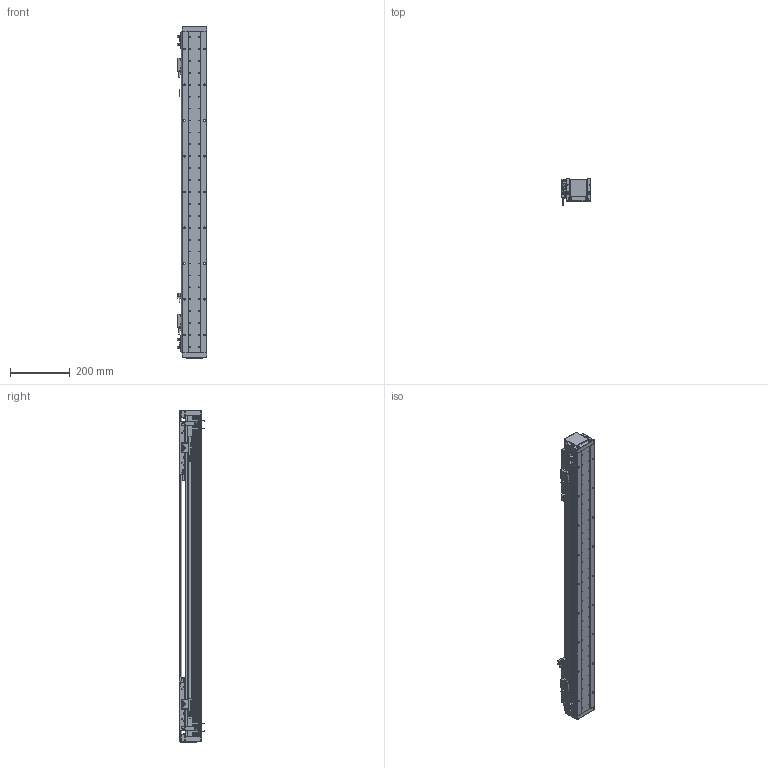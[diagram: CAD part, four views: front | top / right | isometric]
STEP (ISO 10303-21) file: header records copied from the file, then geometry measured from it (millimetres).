
FILE_DESCRIPTION (( 'STEP AP203' ), '1' );
FILE_NAME ('DA-A82-2-B2-T660-C010-0.2 眻盄萇儂.STEP', '2025-08-13T02:31:04', ( '' ), ( '' ), 'SwSTEP 2.0', 'SolidWorks 2019', '' );
FILE_SCHEMA (( 'CONFIG_CONTROL_DESIGN' ));
Length unit declared in the file: millimetre
Products named in the file (27): AU82-M-00 珨极趙賑雄怢啣-1; DA-A82-2-B2-T660-C010-0.2 眻盄萇儂; 复件 DA82-DG-H-N-00 端盖^DA-A82-B2-T-C010-0.2-N 直线电机(默认_按加工_); 复件 DKW-GJ-XJ-00 防撞橡胶^DA-A82-B2-T-C010-0.2-N 直线电机; 复件 DA95-GT-T-00 底座钢轨^IU-AU82-L 底座导轨; DA-A60-GYP-DMT-00 光电感应片^DA-A82-B2-T-C010-0.2-N 直线电机(默认); 复件 六角薄螺母 M3^DA-A82-B2-T-C010-0.2-N 直线电机; 葩璃 BKM01-W040-TRL^DA-A82-B2-T-C010-0.2-N 眻盄萇儂; 葩璃 DA82-B2-DP-00 結え^AU82-M 幗紩賑怢; 葩璃 PM-L25^DA-A82-B2-T-C010-0.2-N 眻盄萇儂; 复件 DA60-DMT-DTJ-00 读数头支架^DA-A82-B2-T-C010-0.2-N 直线电机; AU82-HT-M-00 賑雄怢啣; 复件 DA95-B2-GT-00 滑块钢轨^AU82-M-00 一体化滑动台板; 复件 DA82-GYP-ZJ-00 中间光电感应片^DA-A82-B2-T-C010-0.2-N 直线电机; AU82-M 幗紩賑怢; AU82-M-00 珨极趙賑雄怢啣; IU-AU82-L-00 菁釱(L1080); 复件 DA82-T-002-00 盖板^DA-A82-B2-T-C010-0.2-N 直线电机; 复件 复件 DA82-XJ-00 缓冲橡胶^DA-A82-B2-T-C010-0.2-N 直线电机; 复件 纯铜油杯 6x6mm^AU82-M 滚珠滑台; AU82-M 幗紩賑怢-1; 葩璃 PM-T45^DA-A82-B2-T-C010-0.2-N 眻盄萇儂; 复件 BKM02-W040-C1-TP-DA-3.0 直线电机动子^DA-A82-B2-T-C010-0.2-N 直线电机; 葩璃 DMT-010 1米m 0.2M^DA-A82-B2-T-C010-0.2-N 眻盄萇儂; 复件 XD-U-02  磁栅尺^DA-A82-B2-T-C010-0.2-N 直线电机; 复件 DA82-GDZ-ZJ-00 中间光电固定座^DA-A82-B2-T-C010-0.2-N 直线电机; IU-AU82-L 菁釱絳寢
Assembly tree (57 placements, depth 4):
  DA-A82-2-B2-T660-C010-0.2 眻盄萇儂
    IU-AU82-L 菁釱絳寢
      IU-AU82-L-00 菁釱(L1080)
      复件 DA95-GT-T-00 底座钢轨^IU-AU82-L 底座导轨  x2
    AU82-M 幗紩賑怢
      AU82-M-00 珨极趙賑雄怢啣
        AU82-HT-M-00 賑雄怢啣
        复件 DA95-B2-GT-00 滑块钢轨^AU82-M-00 一体化滑动台板  x4
      葩璃 DA82-B2-DP-00 結え^AU82-M 幗紩賑怢  x2
      复件 纯铜油杯 6x6mm^AU82-M 滚珠滑台  x2
    AU82-M 幗紩賑怢-1
      AU82-M-00 珨极趙賑雄怢啣-1
        AU82-HT-M-00 賑雄怢啣
        复件 DA95-B2-GT-00 滑块钢轨^AU82-M-00 一体化滑动台板  x4
      葩璃 DA82-B2-DP-00 結え^AU82-M 幗紩賑怢  x2
      复件 纯铜油杯 6x6mm^AU82-M 滚珠滑台  x2
    复件 BKM02-W040-C1-TP-DA-3.0 直线电机动子^DA-A82-B2-T-C010-0.2-N 直线电机  x2
    复件 DA60-DMT-DTJ-00 读数头支架^DA-A82-B2-T-C010-0.2-N 直线电机  x2
    葩璃 DMT-010 1米m 0.2M^DA-A82-B2-T-C010-0.2-N 眻盄萇儂  x2
    DA-A60-GYP-DMT-00 光电感应片^DA-A82-B2-T-C010-0.2-N 直线电机(默认)  x2
    复件 DA82-GDZ-ZJ-00 中间光电固定座^DA-A82-B2-T-C010-0.2-N 直线电机
    葩璃 PM-L25^DA-A82-B2-T-C010-0.2-N 眻盄萇儂
    复件 DA82-GYP-ZJ-00 中间光电感应片^DA-A82-B2-T-C010-0.2-N 直线电机
    复件 DKW-GJ-XJ-00 防撞橡胶^DA-A82-B2-T-C010-0.2-N 直线电机
    复件 复件 DA82-XJ-00 缓冲橡胶^DA-A82-B2-T-C010-0.2-N 直线电机  x2
    复件 DA82-DG-H-N-00 端盖^DA-A82-B2-T-C010-0.2-N 直线电机(默认_按加工_)  x2
    复件 DA82-T-002-00 盖板^DA-A82-B2-T-C010-0.2-N 直线电机
    葩璃 BKM01-W040-TRL^DA-A82-B2-T-C010-0.2-N 眻盄萇儂
    葩璃 PM-T45^DA-A82-B2-T-C010-0.2-N 眻盄萇儂  x4
    复件 XD-U-02  磁栅尺^DA-A82-B2-T-C010-0.2-N 直线电机
    复件 六角薄螺母 M3^DA-A82-B2-T-C010-0.2-N 直线电机  x8
Bounding box: 98.95 x 87.2 x 1114 mm (x, y, z)
Volume: 4001252.1 mm3; surface area: 1131834.4 mm2
Topology: 66 solids, 114 shells, 3139 faces, 8047 edges, 4960 vertices
Faces by surface type: cylinder 1381, plane 1248, cone 436, torus 46, bspline 20, sphere 8
Entity records: 61925 total; most frequent: CARTESIAN_POINT 13408, DIRECTION 9644, ORIENTED_EDGE 9046, EDGE_CURVE 4523, AXIS2_PLACEMENT_3D 3633, VERTEX_POINT 2931, VECTOR 2378, LINE 2378
